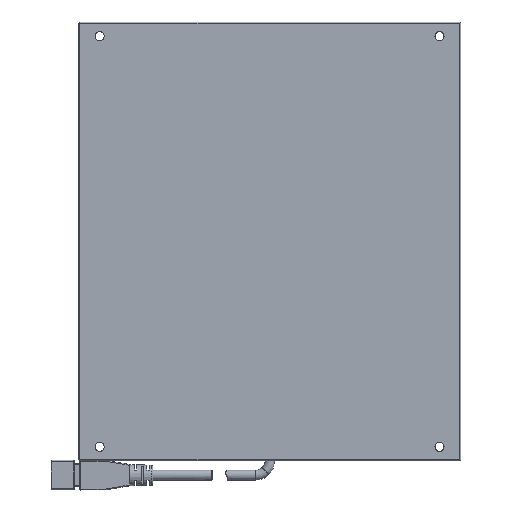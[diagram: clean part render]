
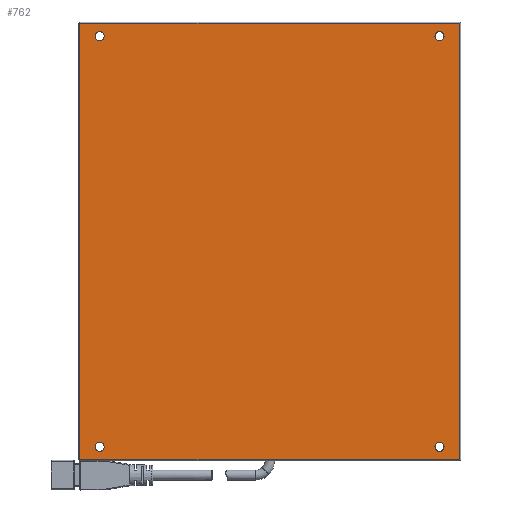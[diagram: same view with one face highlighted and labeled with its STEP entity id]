
A CAD part, front view. The second image highlights one B-rep face of the part: STEP entity #762.
In plain terms, the highlighted planar face has unit normal (0, -1, 0).
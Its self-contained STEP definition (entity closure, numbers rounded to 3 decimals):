
#1=DIRECTION('',(1.,0.,0.));
#2=VECTOR('',#1,134.);
#3=CARTESIAN_POINT('',(-67.,0.,77.));
#4=LINE('',#3,#2);
#5=DIRECTION('',(0.,0.,-1.));
#6=VECTOR('',#5,154.);
#7=CARTESIAN_POINT('',(67.,0.,77.));
#8=LINE('',#7,#6);
#9=DIRECTION('',(-1.,0.,0.));
#10=VECTOR('',#9,134.);
#11=CARTESIAN_POINT('',(67.,0.,-77.));
#12=LINE('',#11,#10);
#13=DIRECTION('',(0.,0.,1.));
#14=VECTOR('',#13,154.);
#15=CARTESIAN_POINT('',(-67.,0.,-77.));
#16=LINE('',#15,#14);
#17=CARTESIAN_POINT('',(-60.,0.,-72.5));
#18=DIRECTION('',(0.,-1.,0.));
#19=DIRECTION('',(0.,0.,1.));
#20=AXIS2_PLACEMENT_3D('',#17,#18,#19);
#22=CARTESIAN_POINT('',(-60.,0.,-72.5));
#23=DIRECTION('',(0.,-1.,0.));
#24=DIRECTION('',(0.,0.,-1.));
#25=AXIS2_PLACEMENT_3D('',#22,#23,#24);
#27=CARTESIAN_POINT('',(-60.,0.,72.5));
#28=DIRECTION('',(0.,-1.,0.));
#29=DIRECTION('',(0.,0.,1.));
#30=AXIS2_PLACEMENT_3D('',#27,#28,#29);
#32=CARTESIAN_POINT('',(-60.,0.,72.5));
#33=DIRECTION('',(0.,-1.,0.));
#34=DIRECTION('',(0.,0.,-1.));
#35=AXIS2_PLACEMENT_3D('',#32,#33,#34);
#37=CARTESIAN_POINT('',(60.,0.,-72.5));
#38=DIRECTION('',(0.,-1.,0.));
#39=DIRECTION('',(0.,0.,1.));
#40=AXIS2_PLACEMENT_3D('',#37,#38,#39);
#42=CARTESIAN_POINT('',(60.,0.,-72.5));
#43=DIRECTION('',(0.,-1.,0.));
#44=DIRECTION('',(0.,0.,-1.));
#45=AXIS2_PLACEMENT_3D('',#42,#43,#44);
#47=CARTESIAN_POINT('',(60.,0.,72.5));
#48=DIRECTION('',(0.,-1.,0.));
#49=DIRECTION('',(0.,0.,1.));
#50=AXIS2_PLACEMENT_3D('',#47,#48,#49);
#52=CARTESIAN_POINT('',(60.,0.,72.5));
#53=DIRECTION('',(0.,-1.,0.));
#54=DIRECTION('',(0.,0.,-1.));
#55=AXIS2_PLACEMENT_3D('',#52,#53,#54);
#551=CARTESIAN_POINT('',(-67.,0.,77.));
#552=CARTESIAN_POINT('',(67.,0.,77.));
#553=VERTEX_POINT('',#551);
#554=VERTEX_POINT('',#552);
#555=CARTESIAN_POINT('',(67.,0.,-77.));
#556=VERTEX_POINT('',#555);
#557=CARTESIAN_POINT('',(-67.,0.,-77.));
#558=VERTEX_POINT('',#557);
#559=CARTESIAN_POINT('',(-60.,0.,-70.9));
#560=CARTESIAN_POINT('',(-60.,0.,-74.1));
#561=VERTEX_POINT('',#559);
#562=VERTEX_POINT('',#560);
#563=CARTESIAN_POINT('',(-60.,0.,74.1));
#564=CARTESIAN_POINT('',(-60.,0.,70.9));
#565=VERTEX_POINT('',#563);
#566=VERTEX_POINT('',#564);
#567=CARTESIAN_POINT('',(60.,0.,-70.9));
#568=CARTESIAN_POINT('',(60.,0.,-74.1));
#569=VERTEX_POINT('',#567);
#570=VERTEX_POINT('',#568);
#571=CARTESIAN_POINT('',(60.,0.,74.1));
#572=CARTESIAN_POINT('',(60.,0.,70.9));
#573=VERTEX_POINT('',#571);
#574=VERTEX_POINT('',#572);
#723=CARTESIAN_POINT('',(0.,0.,0.));
#724=DIRECTION('',(0.,-1.,0.));
#725=DIRECTION('',(0.,0.,-1.));
#726=AXIS2_PLACEMENT_3D('',#723,#724,#725);
#727=PLANE('',#726);
#729=ORIENTED_EDGE('',*,*,#728,.T.);
#731=ORIENTED_EDGE('',*,*,#730,.T.);
#733=ORIENTED_EDGE('',*,*,#732,.T.);
#735=ORIENTED_EDGE('',*,*,#734,.T.);
#736=EDGE_LOOP('',(#729,#731,#733,#735));
#737=FACE_OUTER_BOUND('',#736,.F.);
#739=ORIENTED_EDGE('',*,*,#738,.T.);
#741=ORIENTED_EDGE('',*,*,#740,.T.);
#742=EDGE_LOOP('',(#739,#741));
#743=FACE_BOUND('',#742,.F.);
#745=ORIENTED_EDGE('',*,*,#744,.T.);
#747=ORIENTED_EDGE('',*,*,#746,.T.);
#748=EDGE_LOOP('',(#745,#747));
#749=FACE_BOUND('',#748,.F.);
#751=ORIENTED_EDGE('',*,*,#750,.T.);
#753=ORIENTED_EDGE('',*,*,#752,.T.);
#754=EDGE_LOOP('',(#751,#753));
#755=FACE_BOUND('',#754,.F.);
#757=ORIENTED_EDGE('',*,*,#756,.T.);
#759=ORIENTED_EDGE('',*,*,#758,.T.);
#760=EDGE_LOOP('',(#757,#759));
#761=FACE_BOUND('',#760,.F.);
#21=CIRCLE('',#20,1.6);
#26=CIRCLE('',#25,1.6);
#31=CIRCLE('',#30,1.6);
#36=CIRCLE('',#35,1.6);
#41=CIRCLE('',#40,1.6);
#46=CIRCLE('',#45,1.6);
#51=CIRCLE('',#50,1.6);
#56=CIRCLE('',#55,1.6);
#728=EDGE_CURVE('',#553,#554,#4,.T.);
#730=EDGE_CURVE('',#554,#556,#8,.T.);
#732=EDGE_CURVE('',#556,#558,#12,.T.);
#734=EDGE_CURVE('',#558,#553,#16,.T.);
#738=EDGE_CURVE('',#561,#562,#21,.T.);
#740=EDGE_CURVE('',#562,#561,#26,.T.);
#744=EDGE_CURVE('',#565,#566,#31,.T.);
#746=EDGE_CURVE('',#566,#565,#36,.T.);
#750=EDGE_CURVE('',#569,#570,#41,.T.);
#752=EDGE_CURVE('',#570,#569,#46,.T.);
#756=EDGE_CURVE('',#573,#574,#51,.T.);
#758=EDGE_CURVE('',#574,#573,#56,.T.);
#762=ADVANCED_FACE('',(#737,#743,#749,#755,#761),#727,.T.);
